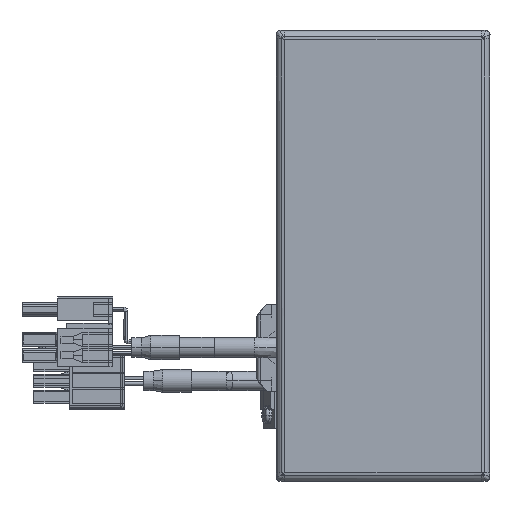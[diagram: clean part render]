
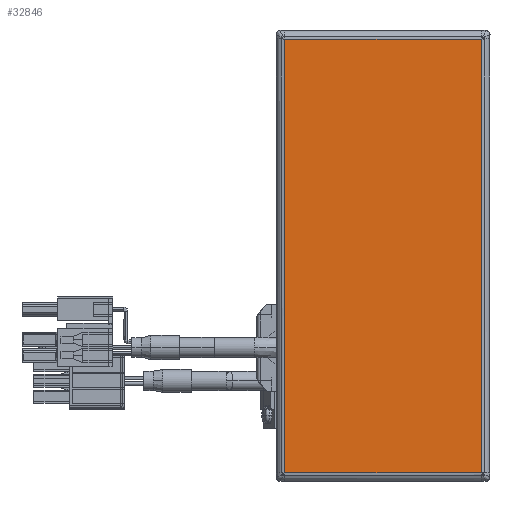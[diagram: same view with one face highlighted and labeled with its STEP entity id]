
A CAD part, top view. The second image highlights one B-rep face of the part: STEP entity #32846.
In plain terms, the highlighted planar face has unit normal (0, 0, 1) as drawn and (0, 0, -1) by its records, which use the part's own axes.
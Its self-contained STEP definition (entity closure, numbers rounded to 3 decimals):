
#298 = CARTESIAN_POINT ( 'NONE',  ( -56.763, -25.793, -1.5 ) ) ;
#2053 = VECTOR ( 'NONE', #19898, 1000. ) ;
#5177 = PLANE ( 'NONE',  #11060 ) ;
#6086 = CARTESIAN_POINT ( 'NONE',  ( -56.763, -25.763, -1.5 ) ) ;
#6422 = CARTESIAN_POINT ( 'NONE',  ( 56.763, 25.763, -1.5 ) ) ;
#7703 = LINE ( 'NONE', #298, #46060 ) ;
#9170 = EDGE_CURVE ( 'NONE', #44672, #51441, #17762, .T. ) ;
#9700 = DIRECTION ( 'NONE',  ( -1., 0., 0. ) ) ;
#9761 = CARTESIAN_POINT ( 'NONE',  ( 0., 0., -1.5 ) ) ;
#11060 = AXIS2_PLACEMENT_3D ( 'NONE', #9761, #14448, #46751 ) ;
#12580 = EDGE_CURVE ( 'NONE', #35392, #42138, #43907, .T. ) ;
#14448 = DIRECTION ( 'NONE',  ( 0., 0., -1. ) ) ;
#17762 = LINE ( 'NONE', #51160, #28539 ) ;
#19303 = VECTOR ( 'NONE', #53062, 1000. ) ;
#19898 = DIRECTION ( 'NONE',  ( 0., -1., 0. ) ) ;
#23250 = DIRECTION ( 'NONE',  ( 0., 1., 0. ) ) ;
#23768 = FACE_OUTER_BOUND ( 'NONE', #40088, .T. ) ;
#27436 = ORIENTED_EDGE ( 'NONE', *, *, #12580, .T. ) ;
#28539 = VECTOR ( 'NONE', #9700, 1000. ) ;
#28937 = ORIENTED_EDGE ( 'NONE', *, *, #57099, .T. ) ;
#32846 = ADVANCED_FACE ( 'NONE', ( #23768 ), #5177, .T. ) ;
#33427 = CARTESIAN_POINT ( 'NONE',  ( 56.763, 25.793, -1.5 ) ) ;
#35392 = VERTEX_POINT ( 'NONE', #49728 ) ;
#38909 = LINE ( 'NONE', #33427, #2053 ) ;
#40088 = EDGE_LOOP ( 'NONE', ( #28937, #47535, #40411, #27436 ) ) ;
#40411 = ORIENTED_EDGE ( 'NONE', *, *, #42977, .T. ) ;
#42138 = VERTEX_POINT ( 'NONE', #6422 ) ;
#42977 = EDGE_CURVE ( 'NONE', #51441, #35392, #7703, .T. ) ;
#43907 = LINE ( 'NONE', #48397, #19303 ) ;
#44672 = VERTEX_POINT ( 'NONE', #51457 ) ;
#46060 = VECTOR ( 'NONE', #23250, 1000. ) ;
#46751 = DIRECTION ( 'NONE',  ( -1., 0., 0. ) ) ;
#47535 = ORIENTED_EDGE ( 'NONE', *, *, #9170, .T. ) ;
#48397 = CARTESIAN_POINT ( 'NONE',  ( -56.793, 25.763, -1.5 ) ) ;
#49728 = CARTESIAN_POINT ( 'NONE',  ( -56.763, 25.763, -1.5 ) ) ;
#51160 = CARTESIAN_POINT ( 'NONE',  ( 56.793, -25.763, -1.5 ) ) ;
#51441 = VERTEX_POINT ( 'NONE', #6086 ) ;
#51457 = CARTESIAN_POINT ( 'NONE',  ( 56.763, -25.763, -1.5 ) ) ;
#53062 = DIRECTION ( 'NONE',  ( 1., 0., 0. ) ) ;
#57099 = EDGE_CURVE ( 'NONE', #42138, #44672, #38909, .T. ) ;
